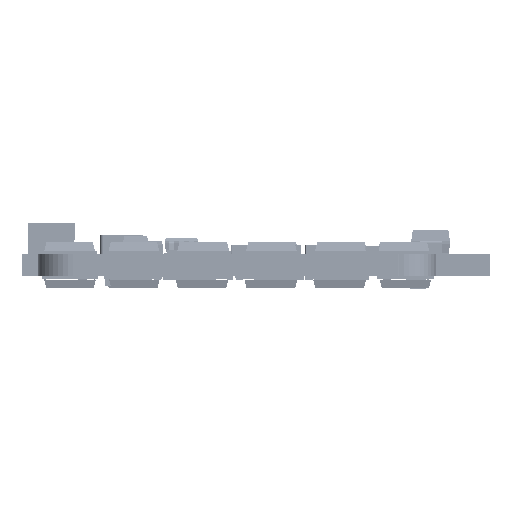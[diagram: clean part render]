
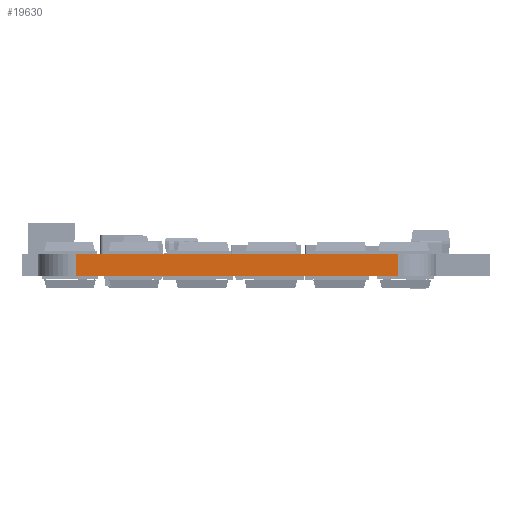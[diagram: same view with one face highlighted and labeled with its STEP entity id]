
A CAD part, left-side view. The second image highlights one B-rep face of the part: STEP entity #19630.
In plain terms, the highlighted planar face has unit normal (-1, 0, 0).
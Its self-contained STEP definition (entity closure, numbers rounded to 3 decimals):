
#12963=FACE_OUTER_BOUND($,#15562,.T.);
#15562=EDGE_LOOP($,(#26454,#26455,#26456,#26457));
#18211=PLANE($,#22869);
#19630=ADVANCED_FACE($,(#12963),#18211,.T.);
#22869=AXIS2_PLACEMENT_3D($,#68277,#59267,$);
#26454=ORIENTED_EDGE($,*,*,#38011,.T.);
#26455=ORIENTED_EDGE($,*,*,#38066,.T.);
#26456=ORIENTED_EDGE($,*,*,#38038,.F.);
#26457=ORIENTED_EDGE($,*,*,#38065,.F.);
#38011=EDGE_CURVE($,#53557,#53558,#48885,.T.);
#38038=EDGE_CURVE($,#53585,#53586,#48904,.T.);
#38065=EDGE_CURVE($,#53557,#53585,#48925,.T.);
#38066=EDGE_CURVE($,#53558,#53586,#48926,.T.);
#44215=VECTOR($,#59201,29.98);
#44234=VECTOR($,#59220,29.98);
#44255=VECTOR($,#59241,2.067);
#44256=VECTOR($,#59242,2.067);
#48885=LINE($,#68277,#44215);
#48904=LINE($,#68313,#44234);
#48925=LINE($,#68277,#44255);
#48926=LINE($,#68278,#44256);
#53557=VERTEX_POINT($,#68277);
#53558=VERTEX_POINT($,#68278);
#53585=VERTEX_POINT($,#68313);
#53586=VERTEX_POINT($,#68314);
#59201=DIRECTION($,(0.,1.,0.));
#59220=DIRECTION($,(0.,1.,0.));
#59241=DIRECTION($,(0.,0.,-1.));
#59242=DIRECTION($,(0.,0.,-1.));
#59267=DIRECTION($,(-1.,0.,0.));
#68277=CARTESIAN_POINT('',(1088.87,547.21,0.));
#68278=CARTESIAN_POINT('',(1088.87,577.19,0.));
#68313=CARTESIAN_POINT('',(1088.87,547.21,-2.067));
#68314=CARTESIAN_POINT('',(1088.87,577.19,-2.067));
